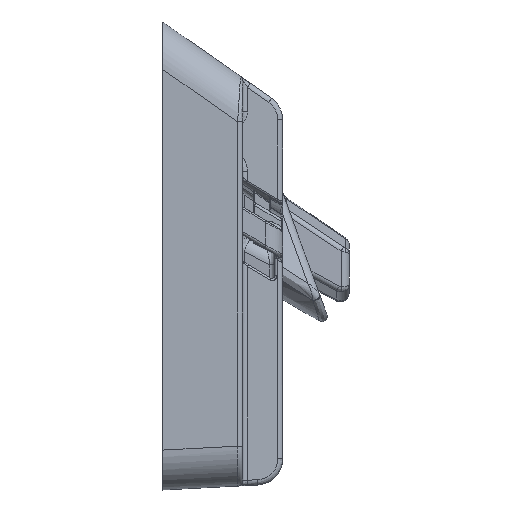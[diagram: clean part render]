
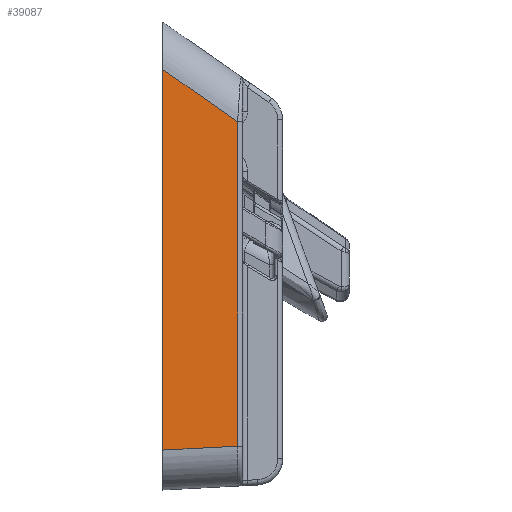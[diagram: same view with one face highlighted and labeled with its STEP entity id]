
A CAD part, front view. The second image highlights one B-rep face of the part: STEP entity #39087.
In plain terms, the highlighted planar face has unit normal (0.052, -0.999, 0).
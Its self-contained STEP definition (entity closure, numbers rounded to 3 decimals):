
#10039=CARTESIAN_POINT('',(-36.252,-138.462,
-87.199));
#10061=DIRECTION('',(0.997,0.052,0.052));
#10062=VECTOR('',#10061,28.379);
#10063=CARTESIAN_POINT('',(-36.252,-138.462,
-87.199));
#10064=LINE('',#10063,#10062);
#10065=DIRECTION('',(-0.818,-0.043,0.573));
#10066=VECTOR('',#10065,34.581);
#10067=CARTESIAN_POINT('',(-7.951,-136.979,
36.854));
#10068=LINE('',#10067,#10066);
#10073=DIRECTION('',(0.,0.,-1.));
#10074=VECTOR('',#10073,122.569);
#10075=CARTESIAN_POINT('',(-7.951,-136.979,
36.854));
#10076=LINE('',#10075,#10074);
#10335=DIRECTION('',(0.,0.,1.));
#10336=VECTOR('',#10335,143.869);
#10337=CARTESIAN_POINT('',(-36.252,-138.462,
-87.199));
#10338=LINE('',#10337,#10336);
#16431=VERTEX_POINT('',#10039);
#16432=CARTESIAN_POINT('',(-36.252,-138.463,
56.67));
#16433=VERTEX_POINT('',#16432);
#16435=CARTESIAN_POINT('',(-7.951,-136.979,
-85.716));
#16436=VERTEX_POINT('',#16435);
#16441=CARTESIAN_POINT('',(-7.951,-136.979,
36.854));
#16442=VERTEX_POINT('',#16441);
#39073=CARTESIAN_POINT('',(-36.252,-138.463,74.557));
#39074=DIRECTION('',(-0.052,0.999,0.));
#39075=DIRECTION('',(0.,0.,-1.));
#39076=AXIS2_PLACEMENT_3D('',#39073,#39074,#39075);
#39077=PLANE('',#39076);
#39079=ORIENTED_EDGE('',*,*,#39078,.T.);
#39080=ORIENTED_EDGE('',*,*,#39064,.F.);
#39082=ORIENTED_EDGE('',*,*,#39081,.T.);
#39084=ORIENTED_EDGE('',*,*,#39083,.F.);
#39085=EDGE_LOOP('',(#39079,#39080,#39082,#39084));
#39086=FACE_OUTER_BOUND('',#39085,.F.);
#39087=ADVANCED_FACE('',(#39086),#39077,.F.);
#39064=EDGE_CURVE('',#16431,#16436,#10064,.T.);
#39078=EDGE_CURVE('',#16442,#16436,#10076,.T.);
#39081=EDGE_CURVE('',#16431,#16433,#10338,.T.);
#39083=EDGE_CURVE('',#16442,#16433,#10068,.T.);
